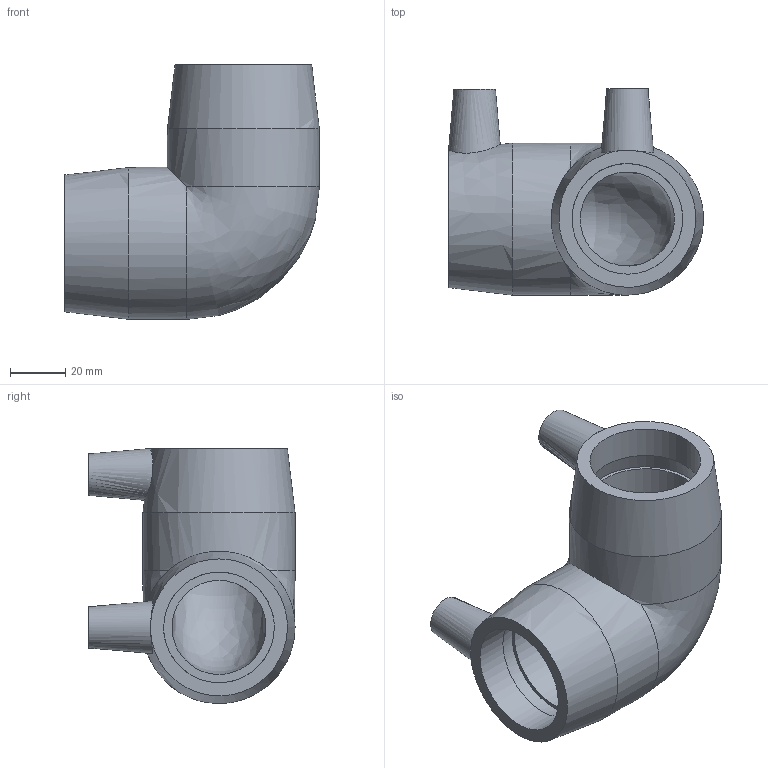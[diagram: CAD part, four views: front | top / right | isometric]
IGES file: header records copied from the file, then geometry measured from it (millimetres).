
Global section: file name: 490504040; native system: Autodesk Inventor 2026; preprocessor: unknown; author: KIM; date: 20260322.131455; units: millimetre
Bounding box: 92.15 x 74.5 x 92.14 mm (x, y, z)
Volume: 141452.1 mm3; surface area: 40611.4 mm2
Topology: 1 solids, 1 shells, 32 faces, 72 edges, 48 vertices
Faces by surface type: bspline 32
